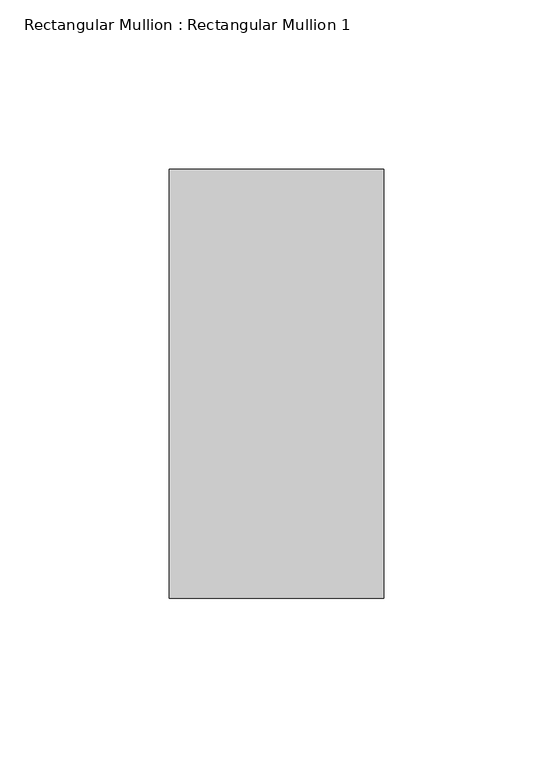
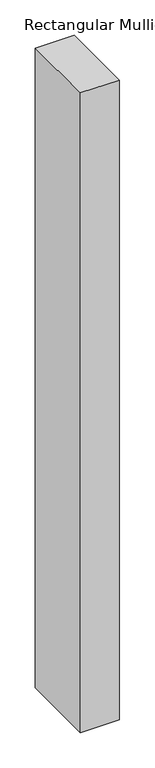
"""IFC4 building model written with IfcOpenShell, lengths in millimetres: member geometry, Rectangular Mullion : Rectangular Mullion 1."""

import ifcopenshell
import ifcopenshell.guid

model = None  # the IFC model being written
_history = None  # IfcOwnerHistory: only IFC2X3 demands one
_inside = {}  # id of a spatial element -> (the spatial element, [elements in it])
_under = {}  # id of a project, library or spatial element -> (it, [spatial elements below it])
_declared = {}  # id of a project -> (the project, [libraries it declares])
_typed = {}  # id of a type object -> (the type object, [elements of that type])
_made_of = {}  # id of a material, layer set ... -> (it, [elements and type objects made of it])


def new_model(schema):
    """Start an empty IFC model of exactly this schema.

    Asked for "IFC4X3", IfcOpenShell would pick the latest addendum, in which some entities
    have other attributes; the version numbers below select the first issue.
    IFC2X3 requires an IfcOwnerHistory on every rooted entity: one is made here for all.
    """
    global model, _history
    if schema == "IFC4X3":
        model = ifcopenshell.file(schema_version=(4, 3, 0, 0))
    else:
        model = ifcopenshell.file(schema=schema)
    _inside.clear()
    _under.clear()
    _declared.clear()
    _typed.clear()
    _made_of.clear()
    _history = None
    if model.schema == "IFC2X3":
        org = make("IfcOrganization", Name="unknown")
        user = make(
            "IfcPersonAndOrganization",
            ThePerson=make("IfcPerson", FamilyName="unknown"),
            TheOrganization=org,
        )
        app = make(
            "IfcApplication",
            ApplicationDeveloper=org,
            Version="unknown",
            ApplicationFullName="unknown",
            ApplicationIdentifier="unknown",
        )
        _history = make(
            "IfcOwnerHistory",
            OwningUser=user,
            OwningApplication=app,
            ChangeAction="ADDED",
            CreationDate=0,
        )
    return model


def make(cls, **values):
    """One entity of the class cls with the attributes given. An attribute that is None is left unset."""
    return model.create_entity(
        cls, **{name: value for name, value in values.items() if value is not None}
    )


def rooted(cls, **values):
    """An entity with a GlobalId (a new one), such as an element, a storey or a relation."""
    return make(cls, GlobalId=ifcopenshell.guid.new(), OwnerHistory=_history, **values)


def si_unit(unit_type, name, prefix=None):
    """IfcSIUnit, for example si_unit("LENGTHUNIT", "METRE", prefix="MILLI")."""
    return make("IfcSIUnit", UnitType=unit_type, Prefix=prefix, Name=name)


def assignment(units):
    """IfcUnitAssignment: the units of a project."""
    return None if units is None else make("IfcUnitAssignment", Units=units)


def point(xyz):
    """IfcCartesianPoint."""
    return None if xyz is None else make("IfcCartesianPoint", Coordinates=xyz)


def direction(xyz):
    """IfcDirection."""
    return None if xyz is None else make("IfcDirection", DirectionRatios=xyz)


def frame(location, z_axis=None, x_axis=None):
    """IfcAxis2Placement3D, a coordinate frame: its origin and axes. An axis left out is left unset."""
    return make(
        "IfcAxis2Placement3D",
        Location=point(location),
        Axis=direction(z_axis),
        RefDirection=direction(x_axis),
    )


def origin():
    """The frame at (0, 0, 0) with its axes left unset."""
    return frame((0.0, 0.0, 0.0))


def place(relative_to, where):
    """IfcLocalPlacement: puts the frame where relative to a parent placement (None: the world)."""
    return make(
        "IfcLocalPlacement", PlacementRelTo=relative_to, RelativePlacement=where
    )


def context(
    kind, dimensions, precision=None, world=None, true_north=None, identifier=None
):
    """IfcGeometricRepresentationContext, for example the 3D "Model" context."""
    return make(
        "IfcGeometricRepresentationContext",
        ContextIdentifier=identifier,
        ContextType=kind,
        CoordinateSpaceDimension=dimensions,
        Precision=precision,
        WorldCoordinateSystem=world,
        TrueNorth=true_north,
    )


def project(units=None, contexts=None):
    """IfcProject with its units and contexts."""
    return rooted(
        "IfcProject",
        Name="project",
        RepresentationContexts=contexts,
        UnitsInContext=assignment(units),
    )


def spatial(cls, under=None, at=None, **own):
    """A site, building, storey or space (cls), placed at a placement, below another one or the project."""
    s = rooted(cls, ObjectPlacement=at, **own)
    if under is not None:
        _under.setdefault(under.id(), (under, []))[1].append(s)
    return s


def polyline(points):
    """IfcPolyline through the points."""
    return make("IfcPolyline", Points=[point(p) for p in points])


def outline(outer, holes=None, kind="AREA"):
    """IfcArbitraryClosedProfileDef: a profile drawn as a closed curve; with holes, ...WithVoids."""
    if holes is None:
        return make("IfcArbitraryClosedProfileDef", ProfileType=kind, OuterCurve=outer)
    return make(
        "IfcArbitraryProfileDefWithVoids",
        ProfileType=kind,
        OuterCurve=outer,
        InnerCurves=holes,
    )


def extrude(swept, where, along, depth):
    """IfcExtrudedAreaSolid: the profile swept, set in the frame where, extruded along a direction by depth."""
    return make(
        "IfcExtrudedAreaSolid",
        SweptArea=swept,
        Position=where,
        ExtrudedDirection=direction(along),
        Depth=depth,
    )


def shape(context_of_items, identifier, shape_type, items):
    """IfcShapeRepresentation: the items that make up one representation, for example the "Body"."""
    return make(
        "IfcShapeRepresentation",
        ContextOfItems=context_of_items,
        RepresentationIdentifier=identifier,
        RepresentationType=shape_type,
        Items=items,
    )


def source(mapping_origin, context_of_items, identifier, shape_type, items):
    """IfcRepresentationMap: a shape defined once, which mapped items show again and again."""
    return make(
        "IfcRepresentationMap",
        MappingOrigin=mapping_origin,
        MappedRepresentation=shape(context_of_items, identifier, shape_type, items),
    )


def transform(
    local_origin,
    x_axis=None,
    y_axis=None,
    z_axis=None,
    scale=None,
    scale2=None,
    scale3=None,
    uniform=True,
):
    """IfcCartesianTransformationOperator3D, or its non-uniform kind. x_axis, y_axis, z_axis: its Axis1, 2, 3."""
    if uniform:
        return make(
            "IfcCartesianTransformationOperator3D",
            Axis1=direction(x_axis),
            Axis2=direction(y_axis),
            LocalOrigin=point(local_origin),
            Scale=scale,
            Axis3=direction(z_axis),
        )
    return make(
        "IfcCartesianTransformationOperator3DnonUniform",
        Axis1=direction(x_axis),
        Axis2=direction(y_axis),
        LocalOrigin=point(local_origin),
        Scale=scale,
        Axis3=direction(z_axis),
        Scale2=scale2,
        Scale3=scale3,
    )


def mapped(mapping_source, mapping_target):
    """IfcMappedItem: shows the shape of a source again, moved by a transform."""
    return make(
        "IfcMappedItem", MappingSource=mapping_source, MappingTarget=mapping_target
    )


def made_of(thing, what):
    """Note that an element or type object is made of a material, layer set ...; save() writes the relation."""
    if what is not None:
        _made_of.setdefault(what.id(), (what, []))[1].append(thing)
    return thing


def element(
    cls,
    number,
    at=None,
    inside=None,
    cuts=None,
    type_object=None,
    material=None,
    context=None,
    identifier="Body",
    shape_type=None,
    held_by="IfcProductDefinitionShape",
    body=None,
    shapes=None,
    **own,
):
    """One element of the class cls, such as IfcWall. Its Tag is "e" and its number.

    at: its placement. inside: the storey or other place that contains it. cuts: it is an
    opening in that element (IfcRelVoidsElement). A single representation is given by context,
    identifier, shape_type and body (its items); several are given by shapes. held_by: the class
    of the entity that holds the representations. save() writes the other relations.
    """
    e = rooted(cls, Tag="e%d" % number, ObjectPlacement=at, **own)
    if body is not None:
        shapes = [shape(context, identifier, shape_type, body)]
    if shapes is not None:
        e.Representation = make(held_by, Representations=shapes)
    if inside is not None:
        _inside.setdefault(inside.id(), (inside, []))[1].append(e)
    if cuts is not None:
        rooted(
            "IfcRelVoidsElement", RelatingBuildingElement=cuts, RelatedOpeningElement=e
        )
    if type_object is not None:
        _typed.setdefault(type_object.id(), (type_object, []))[1].append(e)
    return made_of(e, material)


def aggregate(whole, parts):
    """IfcRelAggregates: a whole, such as a stair, and the parts it consists of."""
    return rooted("IfcRelAggregates", RelatingObject=whole, RelatedObjects=parts)


def save(model, path):
    """Write the relations noted so far, then the file.

    IfcRelAggregates (storeys below a building ...), IfcRelContainedInSpatialStructure (elements
    in a storey), IfcRelDefinesByType, IfcRelAssociatesMaterial and IfcRelDeclares: one each for
    every whole, place, type object, material and project.
    """
    for whole, parts in _under.values():
        aggregate(whole, parts)
    for where, things in _inside.values():
        rooted(
            "IfcRelContainedInSpatialStructure",
            RelatedElements=things,
            RelatingStructure=where,
        )
    for kind, things in _typed.values():
        rooted("IfcRelDefinesByType", RelatedObjects=things, RelatingType=kind)
    for what, things in _made_of.values():
        rooted("IfcRelAssociatesMaterial", RelatedObjects=things, RelatingMaterial=what)
    for by, libraries in _declared.values():
        rooted("IfcRelDeclares", RelatingContext=by, RelatedDefinitions=libraries)
    model.write(path)


def rectangular_mullion_rectangular_mullion_1_72aa42b8(model_context):
    return source(origin(), model_context, "Body", "SweptSolid", [
        extrude(outline(polyline([(31.75, 63.5), (31.75, -63.5), (-31.75, -63.5), (-31.75, 63.5), (31.75, 63.5)])), frame((0.0, 0.0, -1102.36), z_axis=(0.0, 0.0, 1.0), x_axis=(1.0, 0.0, 0.0)), (0.0, 0.0, 1.0), 1102.36),
    ])


if __name__ == "__main__":
    model = new_model("IFC4")
    model_context = context("Model", 3, world=origin())
    ifc_project = project(units=[si_unit("LENGTHUNIT", "METRE", prefix="MILLI")], contexts=[model_context])
    site = spatial("IfcSite", under=ifc_project)
    building = spatial("IfcBuilding", under=site)
    placement = place(None, origin())
    rectangular_mullion_rectangular_mullion_1_shape = rectangular_mullion_rectangular_mullion_1_72aa42b8(model_context)
    element("IfcMember", 1, ObjectType="Rectangular Mullion : Rectangular Mullion 1", at=placement, inside=building, context=model_context, shape_type="MappedRepresentation", body=[
        mapped(rectangular_mullion_rectangular_mullion_1_shape, transform((0.0, 0.0, 0.0), x_axis=(1.0, 0.0, 0.0), y_axis=(0.0, 1.0, 0.0), z_axis=(0.0, 0.0, 1.0))),
    ])
    save(model, "model.ifc")
